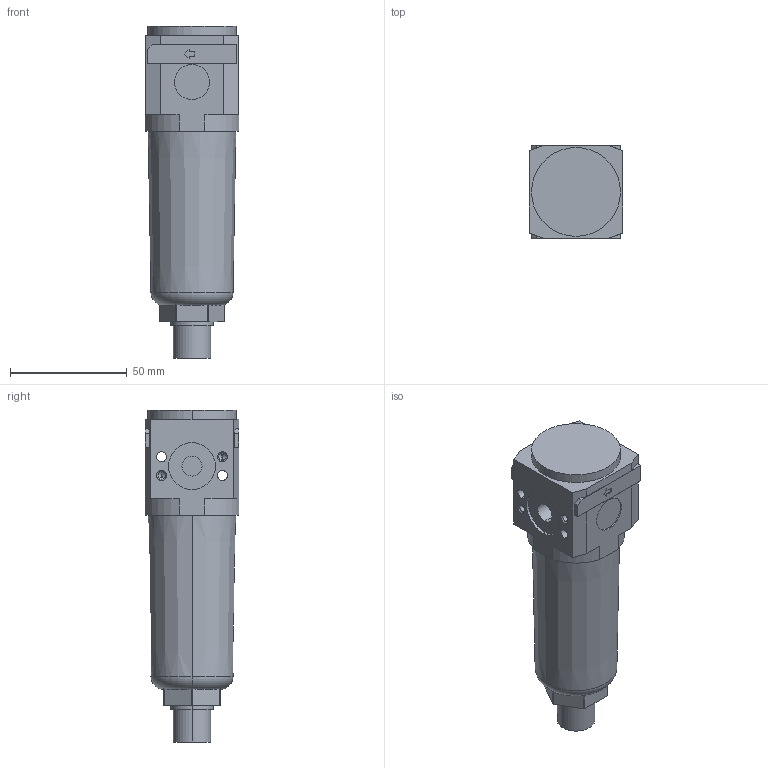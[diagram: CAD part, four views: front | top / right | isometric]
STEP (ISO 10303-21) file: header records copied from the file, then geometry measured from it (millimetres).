
FILE_DESCRIPTION((''),'2;1');
FILE_NAME('I:\DOC-EDP\Lib-3d\FRL\17101A_P.stp','2003-06-16T14:42:42',('maffial1'),(''),'Autodesk Inventor 7','Autodesk Inventor 7','');
FILE_SCHEMA(('AUTOMOTIVE_DESIGN { 1 0 10303 214 1 1 1 1 }'));
Length unit declared in the file: millimetre
Products named in the file (1): 17101A_P
Bounding box: 40 x 40 x 142 mm (x, y, z)
Volume: 144760.4 mm3; surface area: 25094.1 mm2
Topology: 1 solids, 3 shells, 159 faces, 390 edges, 248 vertices
Faces by surface type: bspline 55, plane 54, cylinder 38, cone 10, torus 2
Entity records: 5073 total; most frequent: CARTESIAN_POINT 1407, ORIENTED_EDGE 764, DIRECTION 720, EDGE_CURVE 382, VERTEX_POINT 248, VECTOR 242, LINE 242, AXIS2_PLACEMENT_3D 239
